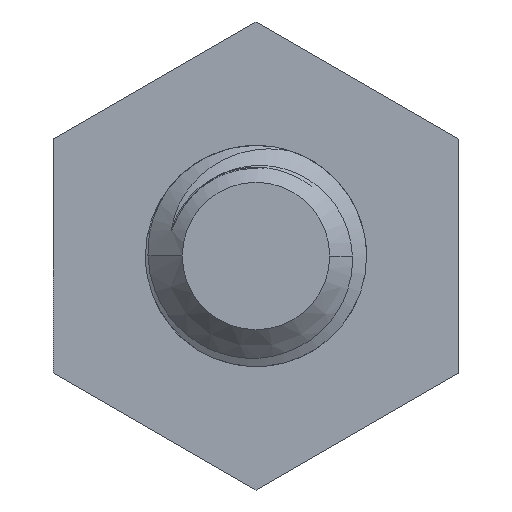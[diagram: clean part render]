
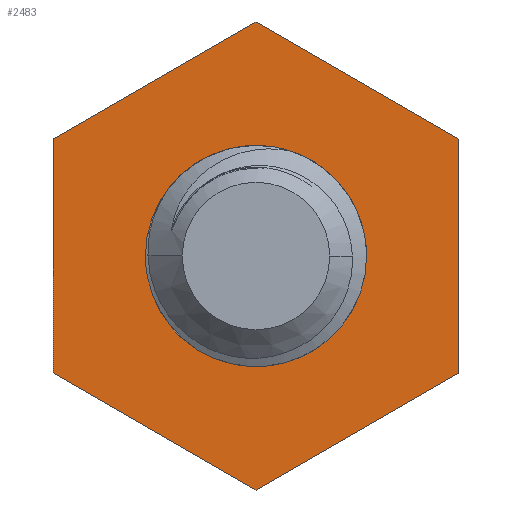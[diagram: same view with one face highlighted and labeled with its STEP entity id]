
A CAD part, front view. The second image highlights one B-rep face of the part: STEP entity #2483.
In plain terms, the highlighted planar face has unit normal (0, -1, 0).
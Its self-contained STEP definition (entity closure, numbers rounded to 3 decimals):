
#1010 = EDGE_CURVE ( 'NONE', #1489, #1535, #1381, .T. ) ;
#1017 = AXIS2_PLACEMENT_3D ( 'NONE', #5185, #5184, #5183 ) ;
#1022 = EDGE_CURVE ( 'NONE', #1484, #1480, #1375, .T. ) ;
#1028 = AXIS2_PLACEMENT_3D ( 'NONE', #5559, #5558, #5557 ) ;
#1045 = EDGE_CURVE ( 'NONE', #1480, #1484, #1355, .T. ) ;
#1114 = EDGE_CURVE ( 'NONE', #1542, #1496, #1275, .T. ) ;
#1177 = EDGE_CURVE ( 'NONE', #1506, #1489, #1225, .T. ) ;
#1180 = EDGE_CURVE ( 'NONE', #1551, #1506, #1217, .T. ) ;
#1181 = EDGE_CURVE ( 'NONE', #1496, #1551, #1212, .T. ) ;
#1185 = EDGE_CURVE ( 'NONE', #1535, #1542, #1209, .T. ) ;
#1205 = VECTOR ( 'NONE', #4359, 1000. ) ;
#1209 = LINE ( 'NONE', #4360, #1205 ) ;
#1210 = VECTOR ( 'NONE', #4376, 1000. ) ;
#1211 = VECTOR ( 'NONE', #4380, 1000. ) ;
#1212 = LINE ( 'NONE', #4377, #1210 ) ;
#1217 = LINE ( 'NONE', #4381, #1211 ) ;
#1218 = VECTOR ( 'NONE', #4409, 1000. ) ;
#1225 = LINE ( 'NONE', #4419, #1218 ) ;
#1275 = LINE ( 'NONE', #2880, #1277 ) ;
#1277 = VECTOR ( 'NONE', #2876, 1000. ) ;
#1355 = CIRCLE ( 'NONE', #1017, 1.5 ) ;
#1375 = CIRCLE ( 'NONE', #1028, 1.5 ) ;
#1380 = VECTOR ( 'NONE', #5078, 1000. ) ;
#1381 = LINE ( 'NONE', #5059, #1380 ) ;
#1430 = EDGE_LOOP ( 'NONE', ( #1780, #1641, #1602, #1793, #1783, #1765 ) ) ;
#1435 = EDGE_LOOP ( 'NONE', ( #1813, #1792 ) ) ;
#1480 = VERTEX_POINT ( 'NONE', #4186 ) ;
#1484 = VERTEX_POINT ( 'NONE', #4185 ) ;
#1489 = VERTEX_POINT ( 'NONE', #4144 ) ;
#1496 = VERTEX_POINT ( 'NONE', #4137 ) ;
#1506 = VERTEX_POINT ( 'NONE', #4157 ) ;
#1535 = VERTEX_POINT ( 'NONE', #4141 ) ;
#1542 = VERTEX_POINT ( 'NONE', #4084 ) ;
#1551 = VERTEX_POINT ( 'NONE', #4075 ) ;
#1602 = ORIENTED_EDGE ( 'NONE', *, *, #1180, .F. ) ;
#1641 = ORIENTED_EDGE ( 'NONE', *, *, #1177, .F. ) ;
#1765 = ORIENTED_EDGE ( 'NONE', *, *, #1185, .F. ) ;
#1780 = ORIENTED_EDGE ( 'NONE', *, *, #1010, .F. ) ;
#1783 = ORIENTED_EDGE ( 'NONE', *, *, #1114, .F. ) ;
#1792 = ORIENTED_EDGE ( 'NONE', *, *, #1022, .T. ) ;
#1793 = ORIENTED_EDGE ( 'NONE', *, *, #1181, .F. ) ;
#1813 = ORIENTED_EDGE ( 'NONE', *, *, #1045, .T. ) ;
#2483 = ADVANCED_FACE ( 'NONE', ( #4717, #4712 ), #4285, .F. ) ;
#2876 = DIRECTION ( 'NONE',  ( -0.866, 0., -0.5 ) ) ;
#2880 = CARTESIAN_POINT ( 'NONE',  ( 2.75, 0., -1.588 ) ) ;
#4075 = CARTESIAN_POINT ( 'NONE',  ( -2.75, 0., -1.588 ) ) ;
#4084 = CARTESIAN_POINT ( 'NONE',  ( 2.75, 0., -1.588 ) ) ;
#4137 = CARTESIAN_POINT ( 'NONE',  ( 0., 0., -3.175 ) ) ;
#4141 = CARTESIAN_POINT ( 'NONE',  ( 2.75, 0., 1.588 ) ) ;
#4144 = CARTESIAN_POINT ( 'NONE',  ( 0., 0., 3.175 ) ) ;
#4157 = CARTESIAN_POINT ( 'NONE',  ( -2.75, 0., 1.588 ) ) ;
#4185 = CARTESIAN_POINT ( 'NONE',  ( 1.5, 0., 0. ) ) ;
#4186 = CARTESIAN_POINT ( 'NONE',  ( -1.5, 0., 0. ) ) ;
#4283 = DIRECTION ( 'NONE',  ( -1., 0., 0. ) ) ;
#4285 = PLANE ( 'NONE',  #5570 ) ;
#4297 = CARTESIAN_POINT ( 'NONE',  ( 1.5, 0., 0. ) ) ;
#4348 = DIRECTION ( 'NONE',  ( 0., 1., 0. ) ) ;
#4359 = DIRECTION ( 'NONE',  ( 0., 0., -1. ) ) ;
#4360 = CARTESIAN_POINT ( 'NONE',  ( 2.75, 0., 1.588 ) ) ;
#4376 = DIRECTION ( 'NONE',  ( -0.866, 0., 0.5 ) ) ;
#4377 = CARTESIAN_POINT ( 'NONE',  ( 0., 0., -3.175 ) ) ;
#4380 = DIRECTION ( 'NONE',  ( 0., 0., 1. ) ) ;
#4381 = CARTESIAN_POINT ( 'NONE',  ( -2.75, 0., -1.588 ) ) ;
#4409 = DIRECTION ( 'NONE',  ( 0.866, 0., 0.5 ) ) ;
#4419 = CARTESIAN_POINT ( 'NONE',  ( -2.75, 0., 1.588 ) ) ;
#4712 = FACE_BOUND ( 'NONE', #1435, .T. ) ;
#4717 = FACE_OUTER_BOUND ( 'NONE', #1430, .T. ) ;
#5059 = CARTESIAN_POINT ( 'NONE',  ( 0., 0., 3.175 ) ) ;
#5078 = DIRECTION ( 'NONE',  ( 0.866, 0., -0.5 ) ) ;
#5183 = DIRECTION ( 'NONE',  ( -1., 0., 0. ) ) ;
#5184 = DIRECTION ( 'NONE',  ( 0., 1., 0. ) ) ;
#5185 = CARTESIAN_POINT ( 'NONE',  ( 0., 0., 0. ) ) ;
#5557 = DIRECTION ( 'NONE',  ( -1., 0., 0. ) ) ;
#5558 = DIRECTION ( 'NONE',  ( 0., 1., 0. ) ) ;
#5559 = CARTESIAN_POINT ( 'NONE',  ( 0., 0., 0. ) ) ;
#5570 = AXIS2_PLACEMENT_3D ( 'NONE', #4297, #4348, #4283 ) ;
